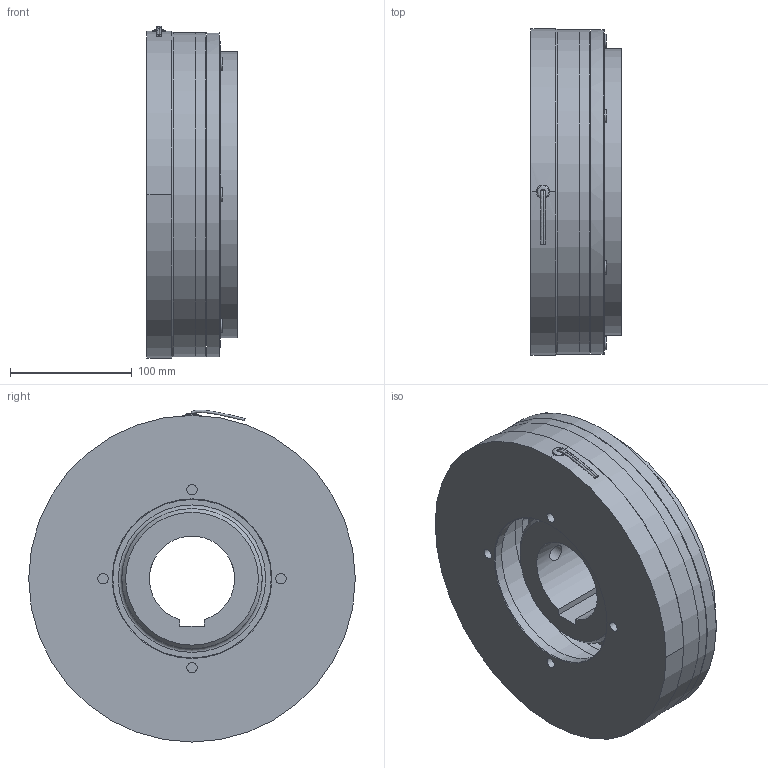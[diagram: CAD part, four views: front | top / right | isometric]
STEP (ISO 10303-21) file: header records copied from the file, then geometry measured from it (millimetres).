
FILE_DESCRIPTION(/* description */ (''),/* implementation_level */ '2;1');
FILE_NAME(/* name */ 'X:\INVENTOR\DISEGNI\08_Freni_Friz_Elettmag_Monodisco\08_28 EMFL_DF\EMFL_DF STEP\08_28_260_13 EMFL260_DF-C-MI@STEP.stp',/* time_stamp */ '2018-04-23T09:45:31+02:00',/* author */ ('stefano'),/* organization */ (''),/* preprocessor_version */ 'ST-DEVELOPER v17',/* originating_system */ 'Autodesk Inventor 2018',/* authorisation */ '');
FILE_SCHEMA (('AUTOMOTIVE_DESIGN { 1 0 10303 214 3 1 1 }'));
Length unit declared in the file: millimetre
Products named in the file (1): 08_28_260_13 EMFL260_DF-C-MI_Substitute_1
Bounding box: 74 x 268 x 272.43 mm (x, y, z)
Volume: 2835799.1 mm3; surface area: 394976.6 mm2
Topology: 2 solids, 2 shells, 458 faces, 1380 edges, 906 vertices
Faces by surface type: cylinder 263, plane 134, cone 51, torus 7, bspline 3
Full cylindrical faces by diameter (mm): 4 x1, 6.647 x6, 7 x12, 7.1 x24, 8.5 x4, 9 x1, 11 x37, 12.5 x6, 13 x6, 13.835 x2, 115 x1, 130 x1, 162 x2, 170 x1, 194 x1, 235 x1, 243 x1, 266 x3
Entity records: 17194 total; most frequent: CARTESIAN_POINT 3505, DIRECTION 3090, ORIENTED_EDGE 2726, EDGE_CURVE 1363, AXIS2_PLACEMENT_3D 1345, VERTEX_POINT 907, CIRCLE 889, EDGE_LOOP 567
